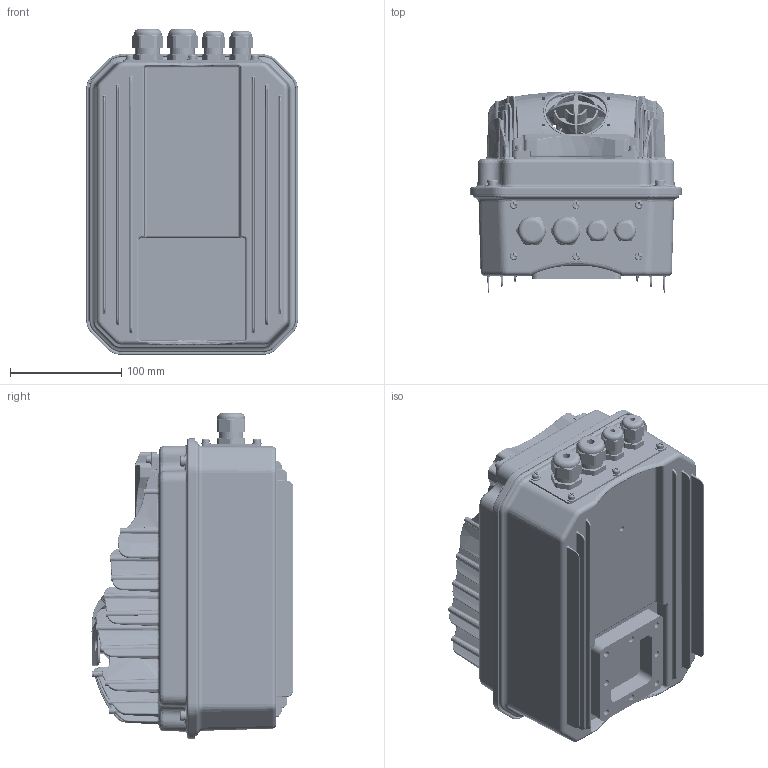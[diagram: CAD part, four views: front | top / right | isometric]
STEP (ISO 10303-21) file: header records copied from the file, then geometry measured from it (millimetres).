
FILE_DESCRIPTION((''),'2;1');
FILE_NAME('J1_ASM','2024-05-27T',('Lenovo'),(''),'CREO PARAMETRIC BY PTC INC, 2016130','CREO PARAMETRIC BY PTC INC, 2016130','');
FILE_SCHEMA(('AUTOMOTIVE_DESIGN { 1 0 10303 214 1 1 1 1 }'));
Products named in the file (36): O-XQ_9_1; 20140915-1_9_1; M12-FANGSHUIJIETOU-1-_9_1; FA-FANGSHUITOUQI-_9_1_1; FA-FANGSHUITOUQI-_9_2_1; FA-FANGSHUITOUQI-_9_ASM_1_ASM; FAN_6025_9_1; 2_2-G00_9_1; M3X10-GB9074-88_9_1; M4X10-GB9074-88_9_1; SG_ASM_ASM_9_ASM_1_ASM; JIEXIANBAN_12_1; SKINTOP_ST_M_20X1_5_1_1_1; SKINTOP_ST_M_16X1_553111410_1_1; SKINTOP-GMP-GL-M20X1_5_12_1; M116-DI_12_1; JIETOU_ASM_ASM_12_ASM_1_ASM; CHUANXIANBANMIFENGQUAN_12_1; PAOMIAN_12_1; XG_ASM_ASM_14_ASM_1_ASM; CONTROLBOX-UP__1_1_1; CONTROLBOX-DOWN__1_1_1; O-1__1_1_1; O-3__1_1_1; O-4_1_1_1; MIFENGDIAN_1_1_1; CONTROL-BOX-2_ASM_ASM_1_1_ASM_1_ASM; ZHUANJIEBAN_9_1; M5X25_1_1_1; M4X12-GB9074-88_1_1_1; XJD_8_1; M5X20_9_1; J1__2_ASM_1; 202_ASM_ASM_24_ASM_1_ASM; J1_ASM_1_ASM; J1_ASM
Assembly tree (60 placements, depth 6):
  J1_ASM
    J1_ASM_1_ASM
      202_ASM_ASM_24_ASM_1_ASM
        SG_ASM_ASM_9_ASM_1_ASM
          O-XQ_9_1
          20140915-1_9_1
          M12-FANGSHUIJIETOU-1-_9_1
          FA-FANGSHUITOUQI-_9_ASM_1_ASM  x2
            FA-FANGSHUITOUQI-_9_1_1
            FA-FANGSHUITOUQI-_9_2_1
          FAN_6025_9_1
          2_2-G00_9_1
          M3X10-GB9074-88_9_1  x4
          M4X10-GB9074-88_9_1  x2
        XG_ASM_ASM_14_ASM_1_ASM
          JIETOU_ASM_ASM_12_ASM_1_ASM
            JIEXIANBAN_12_1
            SKINTOP_ST_M_20X1_5_1_1_1  x2
            SKINTOP_ST_M_16X1_553111410_1_1  x2
            SKINTOP-GMP-GL-M20X1_5_12_1  x2
            M116-DI_12_1  x2
          CHUANXIANBANMIFENGQUAN_12_1
          PAOMIAN_12_1
        CONTROL-BOX-2_ASM_ASM_1_1_ASM_1_ASM
          CONTROLBOX-UP__1_1_1
          CONTROLBOX-DOWN__1_1_1
          O-1__1_1_1
          O-3__1_1_1
          O-4_1_1_1
          MIFENGDIAN_1_1_1
        ZHUANJIEBAN_9_1
        M5X25_1_1_1  x4
        M4X12-GB9074-88_1_1_1  x10
        XJD_8_1  x2
        M5X20_9_1  x4
        J1__2_ASM_1
Bounding box: 190.1 x 181.16 x 292.75 mm (x, y, z)
Volume: 4199974.8 mm3; surface area: 800887.6 mm2
Topology: 53 solids, 80 shells, 6692 faces, 17339 edges, 10927 vertices
Faces by surface type: cylinder 2069, plane 1832, bspline 1526, torus 727, cone 446, extrusion 52, sphere 40
Entity records: 315197 total; most frequent: CARTESIAN_POINT 144204, ORIENTED_EDGE 28945, DIRECTION 22651, EDGE_CURVE 14686, PRESENTATION_STYLE_ASSIGNMENT 9347, VERTEX_POINT 9230, STYLED_ITEM 9170, AXIS2_PLACEMENT_3D 8933
